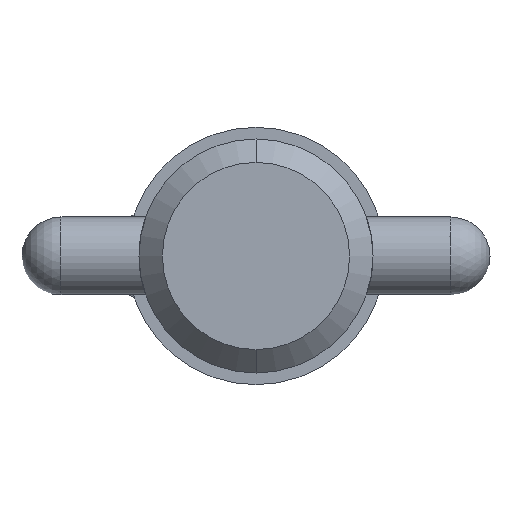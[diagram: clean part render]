
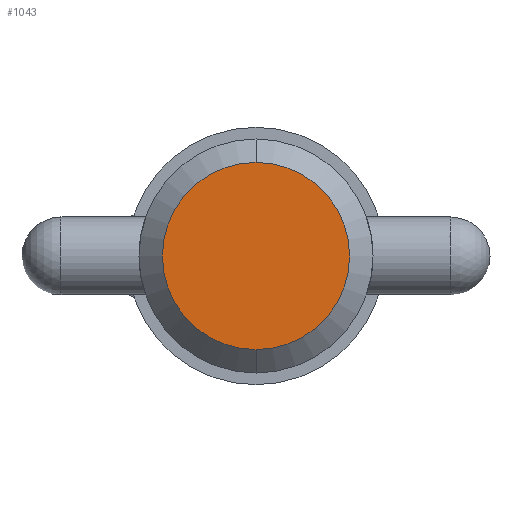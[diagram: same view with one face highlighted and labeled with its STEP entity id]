
A CAD part, left-side view. The second image highlights one B-rep face of the part: STEP entity #1043.
In plain terms, the highlighted planar face has unit normal (-1, 0, 0).
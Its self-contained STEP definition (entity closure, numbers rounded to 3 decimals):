
#13 = EDGE_CURVE ( 'NONE', #232, #430, #773, .T. ) ;
#45 = DIRECTION ( 'NONE',  ( 1., 0., 0. ) ) ;
#70 = DIRECTION ( 'NONE',  ( 0., 0., 1. ) ) ;
#92 = CIRCLE ( 'NONE', #466, 7.62 ) ;
#112 = CARTESIAN_POINT ( 'NONE',  ( 0., 0., 0. ) ) ;
#168 = EDGE_LOOP ( 'NONE', ( #570, #212 ) ) ;
#190 = DIRECTION ( 'NONE',  ( 1., 0., 0. ) ) ;
#212 = ORIENTED_EDGE ( 'NONE', *, *, #13, .F. ) ;
#216 = CARTESIAN_POINT ( 'NONE',  ( 0., 0., 0. ) ) ;
#232 = VERTEX_POINT ( 'NONE', #569 ) ;
#268 = DIRECTION ( 'NONE',  ( 0., 0., -1. ) ) ;
#317 = AXIS2_PLACEMENT_3D ( 'NONE', #683, #190, #268 ) ;
#386 = PLANE ( 'NONE',  #537 ) ;
#392 = DIRECTION ( 'NONE',  ( -1., 0., 0. ) ) ;
#430 = VERTEX_POINT ( 'NONE', #682 ) ;
#466 = AXIS2_PLACEMENT_3D ( 'NONE', #216, #45, #533 ) ;
#533 = DIRECTION ( 'NONE',  ( 0., 0., -1. ) ) ;
#537 = AXIS2_PLACEMENT_3D ( 'NONE', #112, #392, #70 ) ;
#569 = CARTESIAN_POINT ( 'NONE',  ( 0., 0., 7.62 ) ) ;
#570 = ORIENTED_EDGE ( 'NONE', *, *, #593, .F. ) ;
#593 = EDGE_CURVE ( 'NONE', #430, #232, #92, .T. ) ;
#682 = CARTESIAN_POINT ( 'NONE',  ( 0., 0., -7.62 ) ) ;
#683 = CARTESIAN_POINT ( 'NONE',  ( 0., 0., 0. ) ) ;
#773 = CIRCLE ( 'NONE', #317, 7.62 ) ;
#797 = FACE_OUTER_BOUND ( 'NONE', #168, .T. ) ;
#1043 = ADVANCED_FACE ( 'NONE', ( #797 ), #386, .T. ) ;
